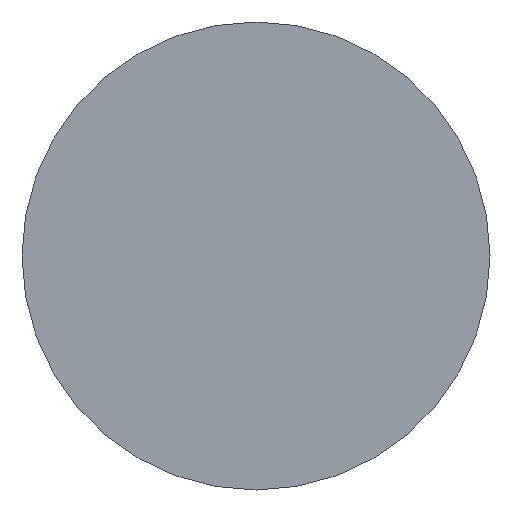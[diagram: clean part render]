
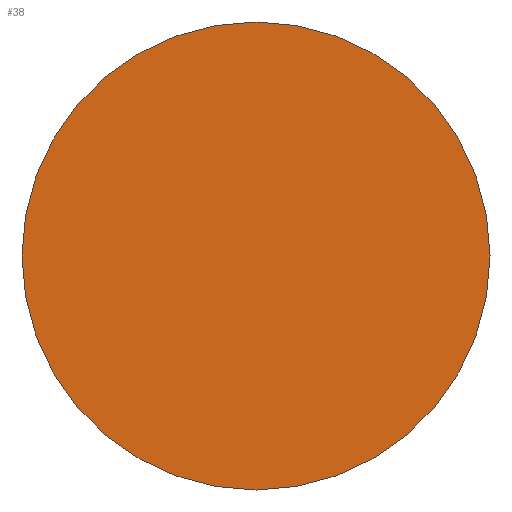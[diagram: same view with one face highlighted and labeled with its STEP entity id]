
A CAD part, front view. The second image highlights one B-rep face of the part: STEP entity #38.
In plain terms, the highlighted planar face has unit normal (0, -1, 0).
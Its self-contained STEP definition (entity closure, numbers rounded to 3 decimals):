
#15=PLANE('',#45);
#20=FACE_OUTER_BOUND('',#24,.T.);
#24=EDGE_LOOP('',(#34));
#26=CIRCLE('',#43,19.);
#28=VERTEX_POINT('',#62);
#30=EDGE_CURVE('',#28,#28,#26,.T.);
#34=ORIENTED_EDGE('',*,*,#30,.F.);
#38=ADVANCED_FACE('',(#20),#15,.T.);
#43=AXIS2_PLACEMENT_3D('',#63,#52,#53);
#45=AXIS2_PLACEMENT_3D('',#65,#56,#57);
#52=DIRECTION('center_axis',(0.,1.,0.));
#53=DIRECTION('ref_axis',(1.,0.,0.));
#56=DIRECTION('center_axis',(0.,-1.,0.));
#57=DIRECTION('ref_axis',(0.,0.,-1.));
#62=CARTESIAN_POINT('',(-19.,0.,0.));
#63=CARTESIAN_POINT('Origin',(0.,0.,
0.));
#65=CARTESIAN_POINT('Origin',(-19.,0.,0.));
